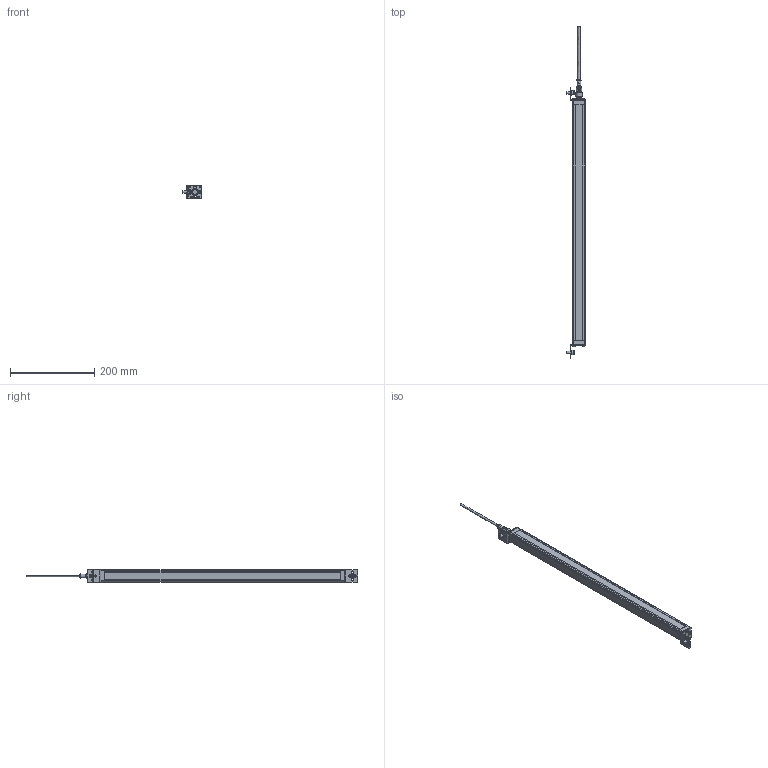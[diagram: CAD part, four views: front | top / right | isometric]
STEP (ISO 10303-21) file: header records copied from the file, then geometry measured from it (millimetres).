
FILE_DESCRIPTION(/* description */ (''),/* implementation_level */ '2;1');
FILE_NAME(/* name */ 'QE56-10-550.prt.stp',/* time_stamp */ '2023-07-18T20:04:54+08:00',/* author */ (''),/* organization */ (''),/* preprocessor_version */ 'ST-DEVELOPER v14',/* originating_system */ 'SIEMENS PLM Software NX 8.0',/* authorisation */ '');
FILE_SCHEMA (('CONFIG_CONTROL_DESIGN'));
Products named in the file (1): QE56-10-550
Bounding box: 44.2 x 788.8 x 30 mm (x, y, z)
Volume: 476106.6 mm3; surface area: 115845.6 mm2
Topology: 25 solids, 25 shells, 615 faces, 1569 edges, 1039 vertices
Faces by surface type: plane 335, cylinder 196, bspline 57, cone 18, sphere 5, torus 4
Full cylindrical faces by diameter (mm): 0.7 x2, 1 x5, 2 x5, 2.2 x8, 3.6 x8, 4 x4, 5.5 x12, 6 x2, 7 x2, 8 x1, 9.04 x1, 9.1 x1, 10 x3, 10.8 x1, 11 x2, 11.85 x1, 11.9 x1, 14.5 x1, 15 x2, 15.2 x2
Entity records: 41715 total; most frequent: CARTESIAN_POINT 27549, ORIENTED_EDGE 2832, DIRECTION 2774, EDGE_CURVE 1416, AXIS2_PLACEMENT_3D 1007, VERTEX_POINT 983, EDGE_LOOP 813, LINE 760
